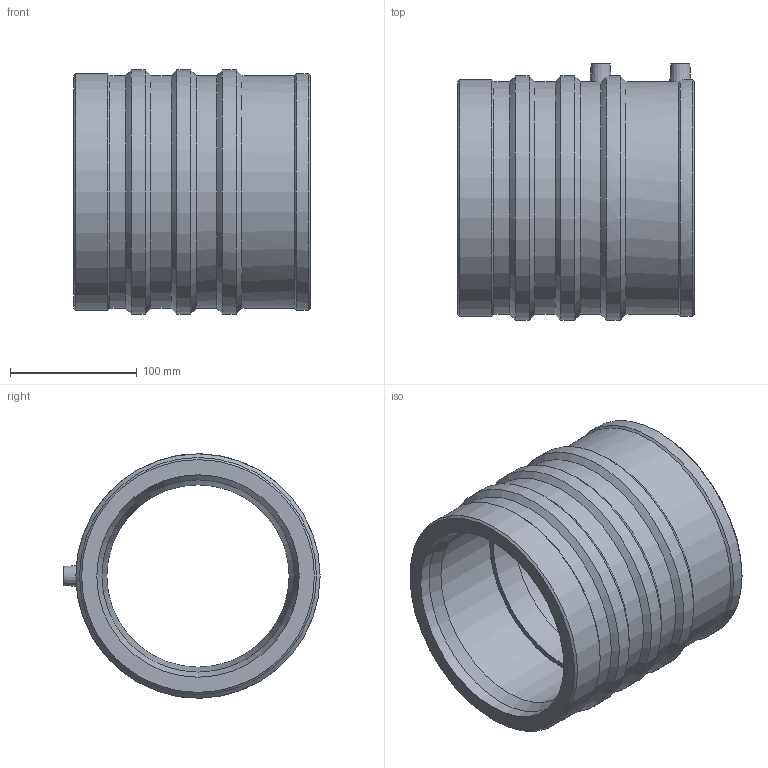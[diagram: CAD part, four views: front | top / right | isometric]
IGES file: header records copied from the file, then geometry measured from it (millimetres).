
Global section: file name: 4701V4160.ipt; native system: Autodesk Inventor 2015; preprocessor: unknown; author: Кирилл,,11,0; organization: 20170830.192643; date: 20171106.093446; units: millimetre
Bounding box: 187 x 202.5 x 193 mm (x, y, z)
Volume: 1441986.5 mm3; surface area: 234679.9 mm2
Topology: 1 solids, 1 shells, 41 faces, 90 edges, 58 vertices
Faces by surface type: cone 12, plane 11, cylinder 11, revolution 7
Full cylindrical faces by diameter (mm): 4 x2, 184 x4, 187.21 x2, 193 x3
